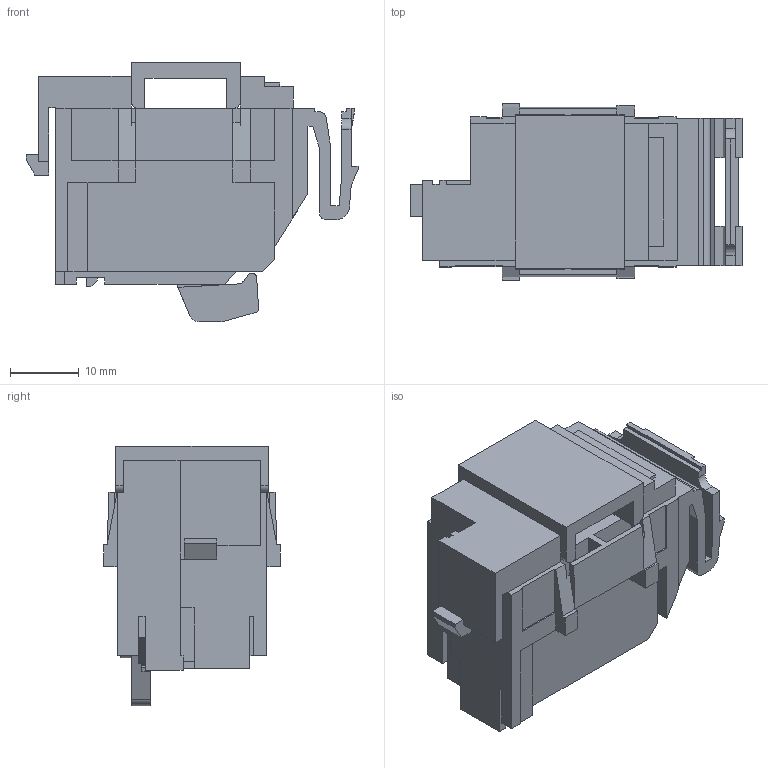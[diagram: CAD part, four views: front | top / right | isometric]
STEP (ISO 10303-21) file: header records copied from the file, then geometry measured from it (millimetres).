
FILE_DESCRIPTION(/* description */ (''),/* implementation_level */ '2;1');
FILE_NAME(/* name */ '2023.11.10.stp',/* time_stamp */ '2023-11-10T14:06:21+08:00',/* author */ (''),/* organization */ (''),/* preprocessor_version */ 'ST-DEVELOPER v16',/* originating_system */ 'SIEMENS PLM Software NX 10.0',/* authorisation */ '');
FILE_SCHEMA (('AUTOMOTIVE_DESIGN { 1 0 10303 214 3 1 1 1 }'));
Length unit declared in the file: millimetre
Products named in the file (1): midi08580DE3vs9n
Bounding box: 48.3 x 25.7 x 37.73 mm (x, y, z)
Volume: 16445.6 mm3; surface area: 9417 mm2
Topology: 1 solids, 1 shells, 292 faces, 881 edges, 569 vertices
Faces by surface type: plane 271, cylinder 21
Full cylindrical faces by diameter (mm): 3 x2
Entity records: 9706 total; most frequent: ORIENTED_EDGE 1754, CARTESIAN_POINT 1737, DIRECTION 1508, EDGE_CURVE 877, LINE 832, VECTOR 832, VERTEX_POINT 567, AXIS2_PLACEMENT_3D 338
